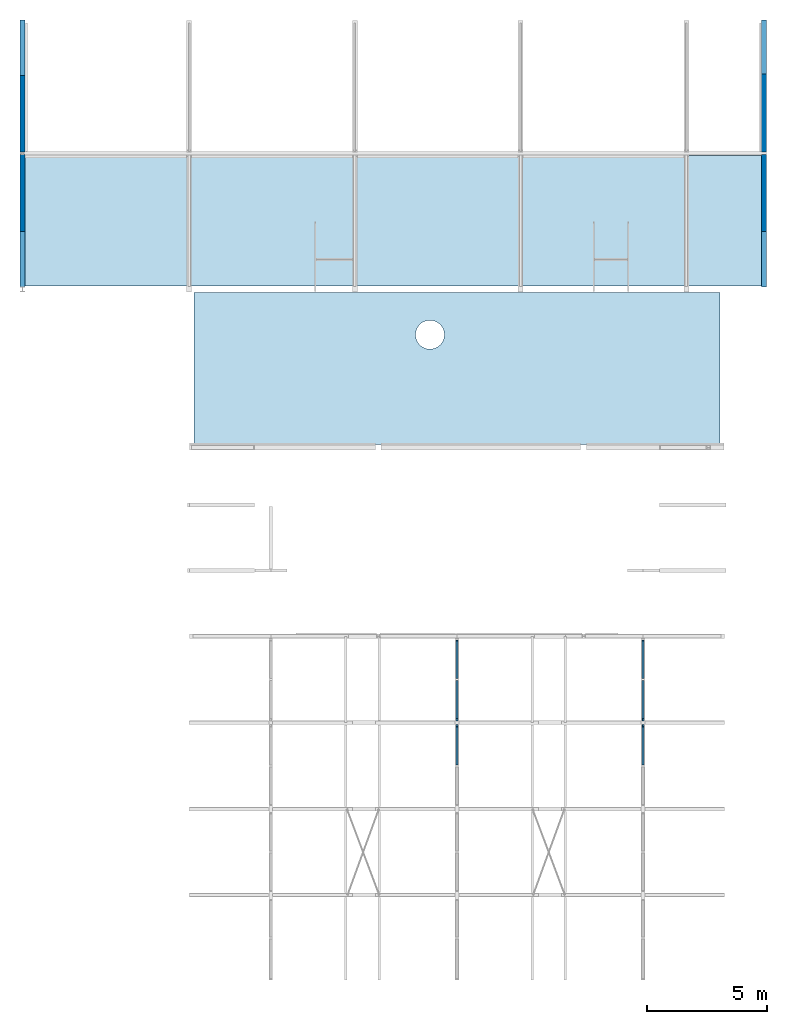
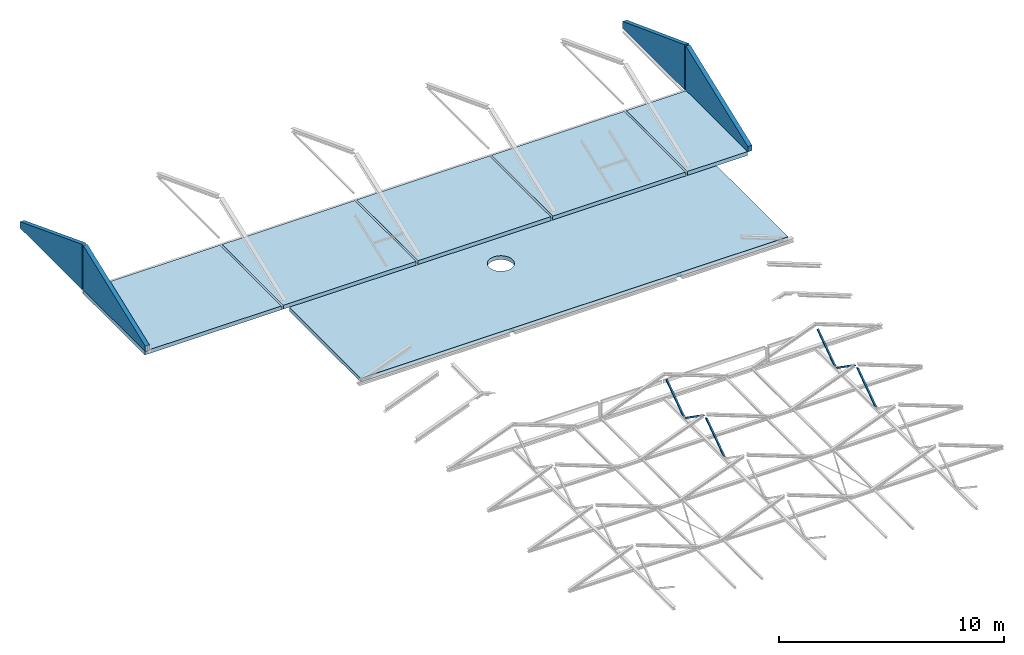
# One storey, part 7 of 10: 6 beams, 6 slabs, 4 walls, 1 opening.
"""IFC2X3 building model written with IfcOpenShell, lengths in millimetres."""

from ifc_helpers import new_model, entity, si_unit, converted_unit, derived_unit, direction, frame, frame_2d, origin, origin_2d_with_axis, place, context, subcontext, project, spatial, rectangle, circle, extrude, clip, halfspace, faceted_brep, material, layer, layer_set, layer_usage, type_object, element, save


model = new_model("IFC2X3")

# Units and contexts
model_context = context("Model", 3, precision=0.01, world=origin(), true_north=direction((6.123031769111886e-17, 1.0)))
body_context = subcontext(model_context, "Body", "Model", "MODEL_VIEW")
ifc_project = project(units=[si_unit("LENGTHUNIT", "METRE", prefix="MILLI"), si_unit("AREAUNIT", "SQUARE_METRE", prefix="MILLI"), si_unit("VOLUMEUNIT", "CUBIC_METRE"), converted_unit("PLANEANGLEUNIT", "DEGREE", entity("IfcPlaneAngleMeasure", 0.017453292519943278), si_unit("PLANEANGLEUNIT", "RADIAN"), dimensions=[0, 0, 0, 0, 0, 0, 0]), si_unit("MASSUNIT", "GRAM", prefix="KILO"), derived_unit("MASSDENSITYUNIT", [(si_unit("MASSUNIT", "GRAM", prefix="KILO"), 1), (si_unit("LENGTHUNIT", "METRE"), -3)]), derived_unit("IONCONCENTRATIONUNIT", [(si_unit("MASSUNIT", "GRAM", prefix="KILO"), 1), (si_unit("LENGTHUNIT", "METRE"), -3)]), derived_unit("MOMENTOFINERTIAUNIT", [(si_unit("LENGTHUNIT", "METRE"), 4)]), si_unit("TIMEUNIT", "SECOND"), si_unit("FREQUENCYUNIT", "HERTZ"), si_unit("THERMODYNAMICTEMPERATUREUNIT", "DEGREE_CELSIUS"), derived_unit("THERMALTRANSMITTANCEUNIT", [(si_unit("MASSUNIT", "GRAM", prefix="KILO"), 1), (si_unit("THERMODYNAMICTEMPERATUREUNIT", "KELVIN"), -1), (si_unit("TIMEUNIT", "SECOND"), -3)]), derived_unit("THERMALCONDUCTANCEUNIT", [(si_unit("MASSUNIT", "GRAM", prefix="KILO"), 1), (si_unit("THERMODYNAMICTEMPERATUREUNIT", "KELVIN"), -1), (si_unit("TIMEUNIT", "SECOND"), -3), (si_unit("LENGTHUNIT", "METRE"), 1)]), derived_unit("VOLUMETRICFLOWRATEUNIT", [(si_unit("LENGTHUNIT", "METRE", prefix="DECI"), 3), (si_unit("TIMEUNIT", "SECOND"), -1)]), derived_unit("MASSFLOWRATEUNIT", [(si_unit("MASSUNIT", "GRAM", prefix="KILO"), 1), (si_unit("TIMEUNIT", "SECOND"), -1)]), derived_unit("ROTATIONALFREQUENCYUNIT", [(si_unit("TIMEUNIT", "SECOND"), -1)]), si_unit("ELECTRICCURRENTUNIT", "AMPERE"), si_unit("ELECTRICVOLTAGEUNIT", "VOLT"), si_unit("POWERUNIT", "WATT"), si_unit("FORCEUNIT", "NEWTON", prefix="KILO"), si_unit("ILLUMINANCEUNIT", "LUX"), si_unit("LUMINOUSFLUXUNIT", "LUMEN"), si_unit("LUMINOUSINTENSITYUNIT", "CANDELA"), si_unit("ENERGYUNIT", "JOULE"), derived_unit("USERDEFINED", [(si_unit("MASSUNIT", "GRAM", prefix="KILO"), -1), (si_unit("LENGTHUNIT", "METRE"), -2), (si_unit("TIMEUNIT", "SECOND"), 3), (si_unit("LUMINOUSFLUXUNIT", "LUMEN"), 1)]), derived_unit("USERDEFINED", [(si_unit("MASSUNIT", "GRAM", prefix="KILO"), 1), (si_unit("TIMEUNIT", "SECOND"), -3), (si_unit("LENGTHUNIT", "METRE"), 3), (si_unit("ELECTRICCURRENTUNIT", "AMPERE"), -2)]), derived_unit("SOUNDPOWERUNIT", [(si_unit("MASSUNIT", "GRAM", prefix="KILO"), 1), (si_unit("TIMEUNIT", "SECOND"), -3), (si_unit("LENGTHUNIT", "METRE"), 2)]), derived_unit("SOUNDPRESSUREUNIT", [(si_unit("MASSUNIT", "GRAM", prefix="KILO"), 1), (si_unit("LENGTHUNIT", "METRE"), -1), (si_unit("TIMEUNIT", "SECOND"), -2)]), derived_unit("LINEARVELOCITYUNIT", [(si_unit("LENGTHUNIT", "METRE"), 1), (si_unit("TIMEUNIT", "SECOND"), -1)]), si_unit("PRESSUREUNIT", "PASCAL"), derived_unit("USERDEFINED", [(si_unit("MASSUNIT", "GRAM", prefix="KILO"), 1), (si_unit("LENGTHUNIT", "METRE"), -2), (si_unit("TIMEUNIT", "SECOND"), -2)]), derived_unit("LINEARFORCEUNIT", [(si_unit("MASSUNIT", "GRAM", prefix="KILO"), 1), (si_unit("TIMEUNIT", "SECOND"), -2)]), derived_unit("PLANARFORCEUNIT", [(si_unit("MASSUNIT", "GRAM", prefix="KILO"), 1), (si_unit("LENGTHUNIT", "METRE"), -1), (si_unit("TIMEUNIT", "SECOND"), -2)]), derived_unit("SPECIFICHEATCAPACITYUNIT", [(si_unit("THERMODYNAMICTEMPERATUREUNIT", "KELVIN"), -1), (si_unit("LENGTHUNIT", "METRE"), 2), (si_unit("TIMEUNIT", "SECOND"), -2)]), derived_unit("HEATFLUXDENSITYUNIT", [(si_unit("MASSUNIT", "GRAM", prefix="KILO"), 1), (si_unit("TIMEUNIT", "SECOND"), -3)]), derived_unit("HEATINGVALUEUNIT", [(si_unit("LENGTHUNIT", "METRE"), 2), (si_unit("TIMEUNIT", "SECOND"), -2)]), derived_unit("VAPORPERMEABILITYUNIT", [(si_unit("LENGTHUNIT", "METRE"), -1), (si_unit("TIMEUNIT", "SECOND"), 1)]), derived_unit("DYNAMICVISCOSITYUNIT", [(si_unit("MASSUNIT", "GRAM", prefix="KILO"), 1), (si_unit("TIMEUNIT", "SECOND"), -1), (si_unit("LENGTHUNIT", "METRE"), -1)]), derived_unit("THERMALEXPANSIONCOEFFICIENTUNIT", [(si_unit("THERMODYNAMICTEMPERATUREUNIT", "KELVIN"), -1)]), derived_unit("MODULUSOFELASTICITYUNIT", [(si_unit("MASSUNIT", "GRAM", prefix="KILO"), 1), (si_unit("LENGTHUNIT", "METRE"), -1), (si_unit("TIMEUNIT", "SECOND"), -2)]), derived_unit("ISOTHERMALMOISTURECAPACITYUNIT", [(si_unit("MASSUNIT", "GRAM", prefix="KILO"), -1), (si_unit("LENGTHUNIT", "METRE"), 3)]), derived_unit("MOISTUREDIFFUSIVITYUNIT", [(si_unit("TIMEUNIT", "SECOND"), -1), (si_unit("LENGTHUNIT", "METRE"), 2)]), derived_unit("MASSPERLENGTHUNIT", [(si_unit("MASSUNIT", "GRAM", prefix="KILO"), 1), (si_unit("LENGTHUNIT", "METRE"), -1)]), derived_unit("THERMALRESISTANCEUNIT", [(si_unit("MASSUNIT", "GRAM", prefix="KILO"), -1), (si_unit("TIMEUNIT", "SECOND"), 3), (si_unit("THERMODYNAMICTEMPERATUREUNIT", "KELVIN"), 1)]), derived_unit("ACCELERATIONUNIT", [(si_unit("LENGTHUNIT", "METRE"), 1), (si_unit("TIMEUNIT", "SECOND"), -2)]), derived_unit("ANGULARVELOCITYUNIT", [(si_unit("TIMEUNIT", "SECOND"), -1), (si_unit("PLANEANGLEUNIT", "RADIAN"), 1)]), derived_unit("LINEARSTIFFNESSUNIT", [(si_unit("MASSUNIT", "GRAM", prefix="KILO"), 1), (si_unit("TIMEUNIT", "SECOND"), -2)]), derived_unit("WARPINGCONSTANTUNIT", [(si_unit("LENGTHUNIT", "METRE"), 6)]), derived_unit("LINEARMOMENTUNIT", [(si_unit("MASSUNIT", "GRAM", prefix="KILO"), 1), (si_unit("LENGTHUNIT", "METRE"), 1), (si_unit("TIMEUNIT", "SECOND"), -2)]), derived_unit("TORQUEUNIT", [(si_unit("MASSUNIT", "GRAM", prefix="KILO"), 1), (si_unit("LENGTHUNIT", "METRE"), 2), (si_unit("TIMEUNIT", "SECOND"), -2)])], contexts=[model_context])

# Site, building, storey
site_placement = place(None, origin())
site = spatial("IfcSite", under=ifc_project, at=site_placement, Name="Default", CompositionType="ELEMENT")
building_placement = place(site_placement, origin())
building = spatial("IfcBuilding", under=site, at=building_placement, CompositionType="ELEMENT")
storey_placement = place(building_placement, frame((0.0, 0.0, 10840.0)))
storey = spatial("IfcBuildingStorey", under=building, at=storey_placement, Name="V3 dakvloer", CompositionType="ELEMENT", Elevation=10839.99999999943)

# Beams
ifc_material_1 = material(Name="Metal - Steel - S275 J0H (standaard-kokers/buizen)")
beam_type = type_object("IfcBeamType", Name="btl_staal - Koker:K80x80x5.0", PredefinedType="NOTDEFINED")
beam_1_placement = place(storey_placement, frame((17934.986142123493, 15733.435212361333, 9.953124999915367), z_axis=(0.0, -0.5733968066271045, 0.8192777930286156), x_axis=(0.0, 0.8192777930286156, 0.5733968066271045)))
element("IfcBeam", 1, at=beam_1_placement, inside=storey, type_object=beam_type, material=ifc_material_1, Name="btl_staal - Koker:K80x80x5.0", ObjectType="btl_staal - Koker:K80x80x5.0", context=body_context, shape_type="Brep", body=[
    faceted_brep([(1894.6091227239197, 0.0, -80.0), (1894.6091227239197, -80.0, -80.0), (114.3051769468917, -80.0, -80.0), (114.30517694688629, 0.0, -80.0), (1894.6091227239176, -5.0, -5.0), (1894.6091227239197, -75.0, -5.0), (7.144073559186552, -75.0, -5.0), (7.144073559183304, -5.0, -5.0), (1894.6091227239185, -5.0, -75.0), (1894.6091227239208, -75.0, -75.0), (1894.6091227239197, -80.0, 0.0), (1894.6091227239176, 0.0, 0.0), (0.0, 0.0, 0.0), (0.0, -80.0, 0.0), (107.16110338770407, -75.0, -75.0), (107.16110338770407, -5.0, -75.0)], [[[0, 1, 2, 3]], [[4, 5, 6, 7]], [[4, 8, 9, 5], [10, 1, 0, 11]], [[10, 11, 12, 13]], [[11, 0, 3, 12]], [[1, 10, 13, 2]], [[5, 9, 14, 6]], [[9, 8, 15, 14]], [[8, 4, 7, 15]], [[3, 2, 13, 12], [7, 6, 14, 15]]], outer=[[True], [True], [False, True], [True], [True], [True], [True], [True], [True], [True, False]]),
])
beam_2_placement = place(storey_placement, frame((17934.986142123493, 13964.605013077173, 1117.7385856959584), z_axis=(0.0, 0.5733968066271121, 0.8192777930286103), x_axis=(0.0, -0.8192777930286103, 0.5733968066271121)))
element("IfcBeam", 2, at=beam_2_placement, inside=storey, type_object=beam_type, material=ifc_material_1, Name="btl_staal - Koker:K80x80x5.0", ObjectType="btl_staal - Koker:K80x80x5.0", context=body_context, shape_type="Brep", body=[
    faceted_brep([(-1906.4333306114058, 0.0, -17.872664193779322), (-1906.4333306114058, 80.0, -17.872664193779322), (-12.508734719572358, 80.0, -17.87266419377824), (-12.50873471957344, 0.0, -17.872664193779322), (-2013.5944339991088, 5.0, 57.127335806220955), (-2013.5944339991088, 75.0, 57.127335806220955), (-81.62437784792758, 75.0, 57.127335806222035), (-81.62437784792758, 5.0, 57.127335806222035), (-2020.7385075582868, 80.0, 62.12733580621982), (-2020.7385075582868, 0.0, 62.12733580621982), (-88.76845140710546, 0.0, 62.1273358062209), (-88.76845140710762, 80.0, 62.127335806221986), (0.0, 0.0, 0.0), (0.0, 80.0, 0.0), (-1913.577404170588, 75.0, -12.872664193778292), (-9.009330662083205, 75.0, -12.872664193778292), (0.0, 75.0, 0.0), (-1913.577404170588, 5.0, -12.872664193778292), (-9.00933066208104, 5.0, -12.872664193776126), (0.0, 5.0, 0.0)], [[[0, 1, 2, 3]], [[4, 5, 6, 7]], [[8, 9, 10, 11]], [[9, 0, 3, 12, 10]], [[1, 8, 11, 13, 2]], [[5, 14, 15, 16, 6]], [[14, 17, 18, 15]], [[17, 4, 7, 19, 18]], [[1, 0, 9, 8], [5, 4, 17, 14]], [[13, 16, 15, 18, 19, 12, 3, 2]], [[16, 13, 11, 10, 12, 19, 7, 6]]]),
])
beam_3_placement = place(storey_placement, frame((17934.986142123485, 12133.435212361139, 9.95312499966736), z_axis=(0.0, -0.5733968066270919, 0.8192777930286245), x_axis=(0.0, 0.8192777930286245, 0.5733968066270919)))
element("IfcBeam", 3, at=beam_3_placement, inside=storey, type_object=beam_type, material=ifc_material_1, Name="btl_staal - Koker:K80x80x5.0", ObjectType="btl_staal - Koker:K80x80x5.0", context=body_context, shape_type="Brep", body=[
    faceted_brep([(114.30517694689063, -80.0, -80.0), (114.3051769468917, 0.0, -80.0), (2008.2297728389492, 0.0, -80.0), (2008.2297728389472, -80.0, -80.0), (7.144073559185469, -75.0, -5.0), (7.144073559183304, -5.0, -5.0), (1939.1141297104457, -5.0, -5.0), (1939.114129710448, -75.0, -5.0), (0.0, 0.0, 0.0), (0.0, -80.0, 0.0), (1931.97005615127, -80.0, 0.0), (1931.9700561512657, 0.0, 0.0), (2020.7385075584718, 0.0, -62.127335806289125), (2020.7385075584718, -80.0, -62.12733580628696), (107.16110338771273, -75.0, -75.0), (2020.7385075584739, -75.0, -62.127335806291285), (2011.7291768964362, -75.0, -75.0), (107.16110338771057, -5.0, -75.0), (2011.7291768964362, -5.0, -75.0), (2020.7385075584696, -5.0, -62.12733580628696)], [[[0, 1, 2, 3]], [[4, 5, 6, 7]], [[8, 9, 10, 11]], [[1, 8, 11, 12, 2]], [[9, 0, 3, 13, 10]], [[14, 4, 7, 15, 16]], [[17, 14, 16, 18]], [[5, 17, 18, 19, 6]], [[1, 0, 9, 8], [5, 4, 14, 17]], [[13, 15, 7, 6, 19, 12, 11, 10]], [[15, 13, 3, 2, 12, 19, 18, 16]]]),
])
beam_4_placement = place(storey_placement, frame((25684.07989212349, 15733.435212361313, 9.953124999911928), z_axis=(0.0, -0.5733968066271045, 0.8192777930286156), x_axis=(0.0, 0.8192777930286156, 0.5733968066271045)))
element("IfcBeam", 4, at=beam_4_placement, inside=storey, type_object=beam_type, material=ifc_material_1, Name="btl_staal - Koker:K80x80x5.0", ObjectType="btl_staal - Koker:K80x80x5.0", context=body_context, shape_type="Brep", body=[
    faceted_brep([(1894.6091227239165, 0.0, -80.0), (1894.6091227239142, -80.0, -80.0), (114.30517694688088, -80.0, -80.0), (114.30517694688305, 0.0, -80.0), (1894.6091227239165, -5.0, -5.0), (1894.6091227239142, -75.0, -5.0), (7.144073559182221, -75.0, -5.0), (7.144073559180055, -5.0, -5.0), (1894.6091227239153, -5.0, -75.0), (1894.6091227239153, -75.0, -75.0), (1894.6091227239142, -80.0, 0.0), (1894.6091227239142, 0.0, 0.0), (0.0, 0.0, 0.0), (0.0, -80.0, 0.0), (107.16110338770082, -75.0, -75.0), (107.16110338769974, -5.0, -75.0)], [[[0, 1, 2, 3]], [[4, 5, 6, 7]], [[4, 8, 9, 5], [10, 1, 0, 11]], [[10, 11, 12, 13]], [[11, 0, 3, 12]], [[1, 10, 13, 2]], [[5, 9, 14, 6]], [[9, 8, 15, 14]], [[8, 4, 7, 15]], [[3, 2, 13, 12], [7, 6, 14, 15]]], outer=[[True], [True], [False, True], [True], [True], [True], [True], [True], [True], [True, False]]),
])
beam_5_placement = place(storey_placement, frame((25684.079892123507, 13964.605013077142, 1117.7385856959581), z_axis=(0.0, 0.5733968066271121, 0.8192777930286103), x_axis=(0.0, -0.8192777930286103, 0.5733968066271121)))
element("IfcBeam", 5, at=beam_5_placement, inside=storey, type_object=beam_type, material=ifc_material_1, Name="btl_staal - Koker:K80x80x5.0", ObjectType="btl_staal - Koker:K80x80x5.0", context=body_context, shape_type="Brep", body=[
    faceted_brep([(-1906.4333306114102, 0.0, -17.872664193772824), (-1906.4333306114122, 80.0, -17.872664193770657), (-12.508734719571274, 80.0, -17.872664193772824), (-12.50873471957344, 0.0, -17.872664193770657), (-2013.5944339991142, 5.0, 57.127335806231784), (-2013.5944339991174, 75.0, 57.12733580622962), (-81.62437784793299, 75.0, 57.12733580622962), (-81.62437784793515, 5.0, 57.1273358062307), (-2020.7385075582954, 80.0, 62.12733580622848), (-2020.7385075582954, 0.0, 62.12733580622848), (-88.76845140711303, 0.0, 62.12733580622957), (-88.76845140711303, 80.0, 62.12733580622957), (0.0, 0.0, 0.0), (0.0, 80.0, 0.0), (-1913.5774041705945, 75.0, -12.872664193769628), (-9.009330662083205, 75.0, -12.872664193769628), (0.0, 75.0, 0.0), (-1913.5774041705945, 5.0, -12.872664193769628), (-9.009330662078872, 5.0, -12.872664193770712), (0.0, 5.0, 0.0)], [[[0, 1, 2, 3]], [[4, 5, 6, 7]], [[8, 9, 10, 11]], [[9, 0, 3, 12, 10]], [[1, 8, 11, 13, 2]], [[5, 14, 15, 16, 6]], [[14, 17, 18, 15]], [[17, 4, 7, 19, 18]], [[1, 0, 9, 8], [5, 4, 17, 14]], [[13, 16, 15, 18, 19, 12, 3, 2]], [[16, 13, 11, 10, 12, 19, 7, 6]]]),
])
beam_6_placement = place(storey_placement, frame((25684.07989212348, 12133.43521236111, 9.953124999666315), z_axis=(0.0, -0.5733968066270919, 0.8192777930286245), x_axis=(0.0, 0.8192777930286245, 0.5733968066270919)))
element("IfcBeam", 6, at=beam_6_placement, inside=storey, type_object=beam_type, material=ifc_material_1, Name="btl_staal - Koker:K80x80x5.0", ObjectType="btl_staal - Koker:K80x80x5.0", context=body_context, shape_type="Brep", body=[
    faceted_brep([(114.30517694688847, -80.0, -80.0), (114.3051769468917, 0.0, -80.0), (2008.2297728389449, 0.0, -80.0), (2008.2297728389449, -80.0, -80.0), (7.1440735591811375, -75.0, -5.0), (7.1440735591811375, -5.0, -5.0), (1939.1141297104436, -5.0, -5.0), (1939.1141297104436, -75.0, -5.0), (0.0, 0.0, 0.0), (0.0, -80.0, 0.0), (1931.9700561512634, -80.0, 0.0), (1931.9700561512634, 0.0, 0.0), (2020.7385075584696, 0.0, -62.12733580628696), (2020.7385075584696, -80.0, -62.12733580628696), (107.16110338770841, -75.0, -75.0), (2020.7385075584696, -75.0, -62.12733580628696), (2011.7291768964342, -75.0, -75.0), (107.16110338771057, -5.0, -75.0), (2011.7291768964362, -5.0, -75.0), (2020.7385075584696, -5.0, -62.12733580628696)], [[[0, 1, 2, 3]], [[4, 5, 6, 7]], [[8, 9, 10, 11]], [[1, 8, 11, 12, 2]], [[9, 0, 3, 13, 10]], [[14, 4, 7, 15, 16]], [[17, 14, 16, 18]], [[5, 17, 18, 19, 6]], [[1, 0, 9, 8], [5, 4, 14, 17]], [[13, 15, 7, 6, 19, 12, 11, 10]], [[15, 13, 3, 2, 12, 19, 18, 16]]]),
])

# Slabs
ifc_material_2 = material(Name="Druklaag, C20/25 op systeemvloer")
ifc_layer_1 = layer(ifc_material_2, 60.0)
ifc_material_3 = material(Name="Beton, prefab - kanaalplaat")
ifc_layer_2 = layer(ifc_material_3, 150.0)
ifc_layer_set_1 = layer_set([ifc_layer_1, ifc_layer_2], Name="Floor:D1_ kanaalplaat d=150+druklaag=60-50-60")
ifc_layer_usage_1 = layer_usage(ifc_layer_set_1, "AXIS3", "POSITIVE", 0.0)
slab_type_1 = type_object("IfcSlabType", Name="Floor:D1_ kanaalplaat d=150+druklaag=60-50-60", PredefinedType="FLOOR", material=ifc_layer_set_1)
slab_1_placement = place(storey_placement, origin())
element("IfcSlab", 7, at=slab_1_placement, inside=storey, type_object=slab_type_1, material=ifc_layer_usage_1, Name="Floor:D1_ kanaalplaat d=150+druklaag=60-50-60", ObjectType="Floor:D1_ kanaalplaat d=150+druklaag=60-50-60", PredefinedType="FLOOR", context=body_context, shape_type="SweptSolid", body=[
    extrude(rectangle(XDim=5433.812500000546, YDim=6989.000781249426, at=origin_2d_with_axis()), frame((3280.500390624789, 34784.479455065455, 0.0), z_axis=(0.0, 0.0, -1.0), x_axis=(0.0, 1.0, 0.0)), (0.0, 0.0, 1.0), 209.99999999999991),
])
slab_2_placement = place(storey_placement, origin())
element("IfcSlab", 8, at=slab_2_placement, inside=storey, type_object=slab_type_1, material=ifc_layer_usage_1, Name="Floor:D1_ kanaalplaat d=150+druklaag=60-50-60", ObjectType="Floor:D1_ kanaalplaat d=150+druklaag=60-50-60", PredefinedType="FLOOR", context=body_context, shape_type="SweptSolid", body=[
    extrude(rectangle(XDim=5433.812500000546, YDim=6800.000000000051, at=frame_2d((0.0, -1.1368683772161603e-12), x_axis=(1.0, 0.0))), frame((10275.000781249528, 34784.479455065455, 0.0), z_axis=(0.0, 0.0, -1.0), x_axis=(0.0, 1.0, 0.0)), (0.0, 0.0, 1.0), 209.99999999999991),
])
slab_3_placement = place(storey_placement, origin())
element("IfcSlab", 9, at=slab_3_placement, inside=storey, type_object=slab_type_1, material=ifc_layer_usage_1, Name="Floor:D1_ kanaalplaat d=150+druklaag=60-50-60", ObjectType="Floor:D1_ kanaalplaat d=150+druklaag=60-50-60", PredefinedType="FLOOR", context=body_context, shape_type="SweptSolid", body=[
    extrude(rectangle(XDim=5433.812500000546, YDim=6799.983872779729, at=frame_2d((0.0, 2.0463630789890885e-12), x_axis=(1.0, 0.0))), frame((17174.992717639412, 34784.479455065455, 0.0), z_axis=(0.0, 0.0, -1.0), x_axis=(0.0, 1.0, 0.0)), (0.0, 0.0, 1.0), 209.99999999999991),
])
slab_4_placement = place(storey_placement, origin())
element("IfcSlab", 10, at=slab_4_placement, inside=storey, type_object=slab_type_1, material=ifc_layer_usage_1, Name="Floor:D1_ kanaalplaat d=150+druklaag=60-50-60", ObjectType="Floor:D1_ kanaalplaat d=150+druklaag=60-50-60", PredefinedType="FLOOR", context=body_context, shape_type="SweptSolid", body=[
    extrude(rectangle(XDim=5433.812500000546, YDim=6799.994866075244, at=origin_2d_with_axis()), frame((24074.982087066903, 34784.479455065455, 0.0), z_axis=(0.0, 0.0, -1.0), x_axis=(0.0, 1.0, 0.0)), (0.0, 0.0, 1.0), 209.99999999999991),
])
slab_5_placement = place(storey_placement, origin())
element("IfcSlab", 11, at=slab_5_placement, inside=storey, type_object=slab_type_1, material=ifc_layer_usage_1, Name="Floor:D1_ kanaalplaat d=150+druklaag=60-50-60", ObjectType="Floor:D1_ kanaalplaat d=150+druklaag=60-50-60", PredefinedType="FLOOR", context=body_context, shape_type="SweptSolid", body=[
    extrude(rectangle(XDim=5433.812500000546, YDim=3074.9976748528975, at=origin_2d_with_axis()), frame((29112.47835753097, 34784.479455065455, 0.0), z_axis=(0.0, 0.0, -1.0), x_axis=(0.0, 1.0, 0.0)), (0.0, 0.0, 1.0), 209.99999999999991),
])

# Slab, opening
ifc_layer_3 = layer(ifc_material_2, 60.0)
ifc_layer_4 = layer(ifc_material_3, 150.0)
ifc_layer_set_2 = layer_set([ifc_layer_3, ifc_layer_4], Name="Floor:D2_ kanaalplaat d=150+druklaag=60-50-60")
ifc_layer_usage_2 = layer_usage(ifc_layer_set_2, "AXIS3", "POSITIVE", 0.0)
slab_type_2 = type_object("IfcSlabType", Name="Floor:D2_ kanaalplaat d=150+druklaag=60-50-60", PredefinedType="FLOOR", material=ifc_layer_set_2)
slab_6_placement = place(storey_placement, frame((7031.000781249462, 25464.605013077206, -210.0)))
slab_6 = element("IfcSlab", 12, at=slab_6_placement, inside=storey, type_object=slab_type_2, material=ifc_layer_usage_2, Name="Floor:D2_ kanaalplaat d=150+druklaag=60-50-60", ObjectType="Floor:D2_ kanaalplaat d=150+druklaag=60-50-60", PredefinedType="FLOOR", context=body_context, shape_type="SweptSolid", body=[
    extrude(rectangle(XDim=6342.96819198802, YDim=21887.98536087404, at=frame_2d((0.0, 0.0), x_axis=(0.0, -1.0))), frame((10943.992680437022, 3171.4840959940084, 210.0), z_axis=(0.0, 0.0, -1.0), x_axis=(-1.0, 0.0, 0.0)), (0.0, 0.0, 1.0), 209.99999999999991),
])
opening_placement = place(slab_6_placement, origin())
element("IfcOpeningElement", 13, at=opening_placement, cuts=slab_6, Name="Floor:D2_ kanaalplaat d=150+druklaag=60-50-60", ObjectType="Opening", context=body_context, shape_type="SweptSolid", body=[
    extrude(circle(Radius=600.0316027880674, at=origin_2d_with_axis()), frame((9820.136743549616, 4578.715668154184, 0.0)), (0.0, 0.0, 1.0), 209.99999999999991),
])

# Walls
ifc_material_4 = material(Name="Kalkzandsteen, lijmwerk CS12")
ifc_layer_5 = layer(ifc_material_4, 214.0)
ifc_layer_set_3 = layer_set([ifc_layer_5], Name="Basic Wall:bt_kzst 214")
ifc_layer_usage_3 = layer_usage(ifc_layer_set_3, "AXIS2", "POSITIVE", -107.0)
wall_type = type_object("IfcWallType", Name="Basic Wall:bt_kzst 214", PredefinedType="STANDARD", material=ifc_layer_set_3)
wall_1_placement = place(storey_placement, frame((-107.0, 43144.57320506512, -50.0), z_axis=(0.0, 0.0, 1.0), x_axis=(0.0, -1.0, 0.0)))
element("IfcWallStandardCase", 14, at=wall_1_placement, inside=storey, type_object=wall_type, material=ifc_layer_usage_3, Name="Basic Wall:bt_kzst 214", ObjectType="Basic Wall:bt_kzst 214", context=body_context, shape_type="Clipping", body=[
    clip(clip(extrude(rectangle(XDim=5500.187499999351, YDim=214.0, at=frame_2d((2750.0937499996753, -1.4210854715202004e-14), x_axis=(-1.0, 0.0))), origin(), (0.0, 0.0, 1.0), 2451.4578588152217), halfspace(frame((5500.187499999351, -107.0, 0.0), z_axis=(0.0, 0.0, -1.0), x_axis=(0.0, 1.0, 0.0)), False)), halfspace(frame((0.0, -107.0, 343.6468590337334), z_axis=(-0.3578480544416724, 0.0, 0.9337798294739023), x_axis=(0.0, 1.0, 0.0)), False)),
])
ifc_layer_usage_4 = layer_usage(ifc_layer_set_3, "AXIS2", "NEGATIVE", 107.0)
wall_2_placement = place(storey_placement, frame((-107.0, 32037.573205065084, 0.0), z_axis=(0.0, 0.0, 1.0), x_axis=(0.0, 1.0, 0.0)))
element("IfcWallStandardCase", 15, at=wall_2_placement, inside=storey, type_object=wall_type, material=ifc_layer_usage_4, Name="Basic Wall:bt_kzst 214", ObjectType="Basic Wall:bt_kzst 214", context=body_context, shape_type="Clipping", body=[
    clip(extrude(rectangle(XDim=5506.812500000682, YDim=214.0, at=frame_2d((2753.406250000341, 0.0), x_axis=(-1.0, 0.0))), origin(), (0.0, 0.0, 1.0), 2401.475266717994), halfspace(frame((0.0, -107.0, 291.0097163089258), z_axis=(-0.35786515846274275, 0.0, 0.9337732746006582), x_axis=(0.0, 1.0, 0.0)), False)),
])
wall_3_placement = place(storey_placement, frame((30756.977194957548, 43144.57320506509, -50.0), z_axis=(0.0, 0.0, 1.0), x_axis=(0.0, -1.0, 0.0)))
element("IfcWallStandardCase", 16, at=wall_3_placement, inside=storey, type_object=wall_type, material=ifc_layer_usage_3, Name="Basic Wall:bt_kzst 214", ObjectType="Basic Wall:bt_kzst 214", context=body_context, shape_type="Clipping", body=[
    clip(clip(extrude(rectangle(XDim=5500.187499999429, YDim=214.00000000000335, at=frame_2d((2750.0937499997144, -1.0658141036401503e-13), x_axis=(-1.0, 0.0))), origin(), (0.0, 0.0, 1.0), 2451.4578588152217), halfspace(frame((5500.187499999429, -107.0, 0.0), z_axis=(0.0, 0.0, -1.0), x_axis=(0.0, 1.0, 0.0)), False)), halfspace(frame((0.0, -107.0, 383.8694799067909), z_axis=(-0.35187204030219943, 0.0, 0.9360481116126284), x_axis=(0.0, 1.0, 0.0)), False)),
])
wall_4_placement = place(storey_placement, frame((30756.977194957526, 32037.573205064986, 0.0), z_axis=(0.0, 0.0, 1.0), x_axis=(0.0, 1.0, 0.0)))
element("IfcWallStandardCase", 17, at=wall_4_placement, inside=storey, type_object=wall_type, material=ifc_layer_usage_4, Name="Basic Wall:bt_kzst 214", ObjectType="Basic Wall:bt_kzst 214", context=body_context, shape_type="Clipping", body=[
    clip(extrude(rectangle(XDim=5506.812500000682, YDim=214.00000000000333, at=frame_2d((2753.406250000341, 5.897504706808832e-13), x_axis=(-1.0, 0.0))), origin(), (0.0, 0.0, 1.0), 2401.475266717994), halfspace(frame((0.0, -107.0, 291.00971630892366), z_axis=(-0.3578651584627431, 0.0, 0.9337732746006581), x_axis=(0.0, 1.0, 0.0)), False)),
])

save(model, "model.ifc")
